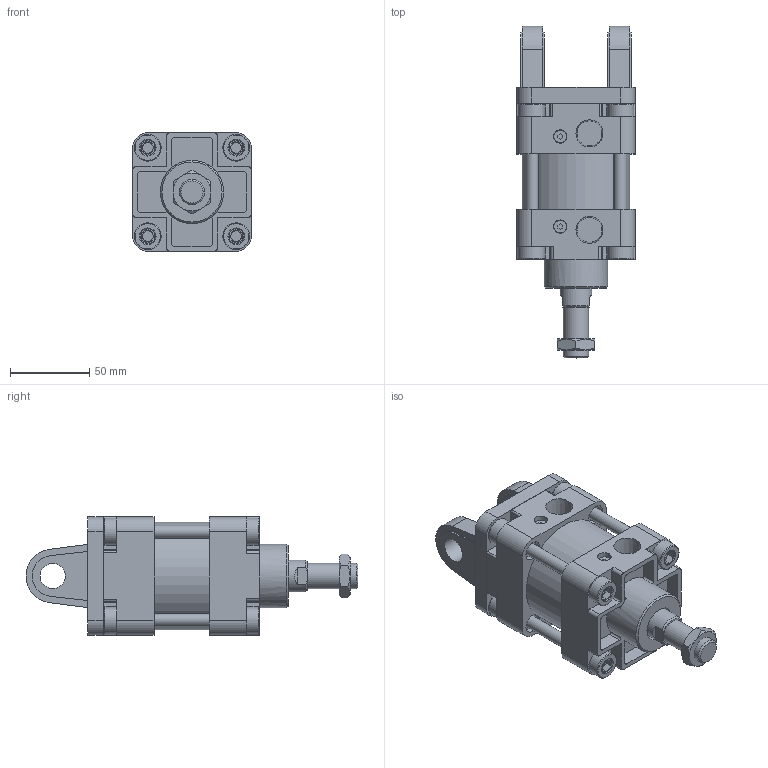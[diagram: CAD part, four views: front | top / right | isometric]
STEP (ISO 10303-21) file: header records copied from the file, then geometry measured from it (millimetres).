
FILE_DESCRIPTION(/* description */ ('Unknown'),/* implementation_level */ '2;1');
FILE_NAME(/* name */ 'WA63-0-CB',/* time_stamp */ '2026-07-17T16:53:49+08:00',/* author */ ('Unknown'),/* organization */ ('Unknown'),/* preprocessor_version */ 'ST-DEVELOPER v16.7',/* originating_system */ 'DEX',/* authorisation */ $);
FILE_SCHEMA (('CONFIG_CONTROL_DESIGN'));
Length unit declared in the file: millimetre
Products named in the file (8): WA63-0-CB; WA63_後; WA63_心軸活; WA63_鋁; WA63_玡嶈搵; M16-1.5P-8_螺; WA63_T碪墮姊濈祫; WA63_CB
Assembly tree (10 placements, depth 2):
  WA63-0-CB
    WA63_後
    WA63_心軸活
    WA63_鋁
    WA63_玡嶈搵
    M16-1.5P-8_螺
    WA63_T碪墮姊濈祫  x4
    WA63_CB
Bounding box: 75 x 209.94 x 75 mm (x, y, z)
Volume: 542539.4 mm3; surface area: 137249.8 mm2
Topology: 10 solids, 10 shells, 412 faces, 1003 edges, 674 vertices
Faces by surface type: plane 235, cylinder 140, cone 29, torus 8
Full cylindrical faces by diameter (mm): 6.8 x8, 8 x6, 8.5 x2, 9 x4, 12 x8, 12.5 x8, 14 x4, 14.5 x1, 15.806 x2, 16 x3, 17 x8, 20 x2, 40 x1, 62.5 x1, 63 x3, 68 x1
Entity records: 10849 total; most frequent: CARTESIAN_POINT 1620, DIRECTION 1588, ORIENTED_EDGE 1410, EDGE_CURVE 705, AXIS2_PLACEMENT_3D 593, VERTEX_POINT 497, EDGE_LOOP 426, FACE_BOUND 426
